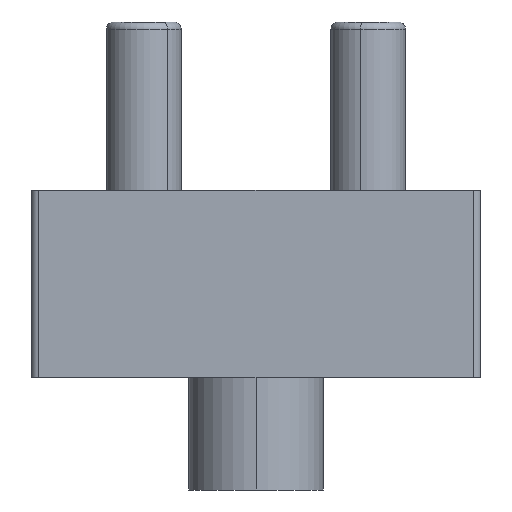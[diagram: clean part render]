
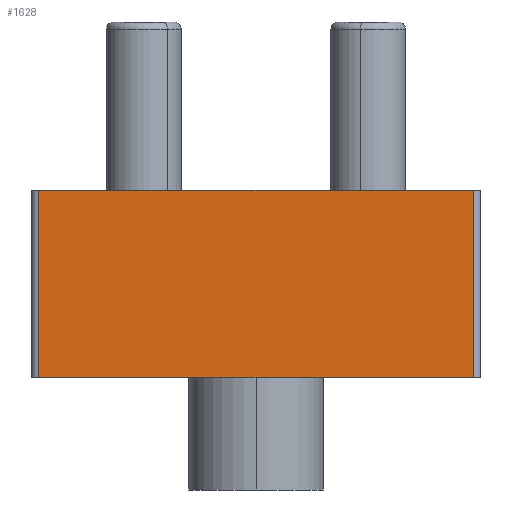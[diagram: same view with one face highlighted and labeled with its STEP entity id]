
A CAD part, left-side view. The second image highlights one B-rep face of the part: STEP entity #1628.
In plain terms, the highlighted planar face has unit normal (-1, 0, 0).
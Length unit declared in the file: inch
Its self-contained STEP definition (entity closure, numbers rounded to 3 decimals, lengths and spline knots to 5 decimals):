
#18 = CARTESIAN_POINT ( 'NONE',  ( -3., -1.45, 1.25 ) ) ;
#47 = DIRECTION ( 'NONE',  ( 0., -1., 0. ) ) ;
#60 = VERTEX_POINT ( 'NONE', #633 ) ;
#144 = ORIENTED_EDGE ( 'NONE', *, *, #1940, .T. ) ;
#183 = AXIS2_PLACEMENT_3D ( 'NONE', #2213, #1673, #821 ) ;
#214 = VERTEX_POINT ( 'NONE', #825 ) ;
#251 = VECTOR ( 'NONE', #988, 39.37008 ) ;
#435 = EDGE_CURVE ( 'NONE', #214, #918, #2195, .T. ) ;
#628 = EDGE_LOOP ( 'NONE', ( #2131, #926, #2222, #144 ) ) ;
#633 = CARTESIAN_POINT ( 'NONE',  ( -3., -1.45, 0. ) ) ;
#682 = VECTOR ( 'NONE', #757, 39.37008 ) ;
#757 = DIRECTION ( 'NONE',  ( 0., 0., 1. ) ) ;
#821 = DIRECTION ( 'NONE',  ( 0., 0., -1. ) ) ;
#825 = CARTESIAN_POINT ( 'NONE',  ( -3., 1.45, 1.25 ) ) ;
#918 = VERTEX_POINT ( 'NONE', #1756 ) ;
#926 = ORIENTED_EDGE ( 'NONE', *, *, #1704, .T. ) ;
#964 = CARTESIAN_POINT ( 'NONE',  ( -3., -1.5, 1.25 ) ) ;
#979 = VERTEX_POINT ( 'NONE', #1601 ) ;
#988 = DIRECTION ( 'NONE',  ( 0., -1., 0. ) ) ;
#1244 = CARTESIAN_POINT ( 'NONE',  ( -3., 1.45, 1.25 ) ) ;
#1344 = LINE ( 'NONE', #1536, #251 ) ;
#1536 = CARTESIAN_POINT ( 'NONE',  ( -3., -1.5, 0. ) ) ;
#1581 = DIRECTION ( 'NONE',  ( 0., 0., -1. ) ) ;
#1582 = VECTOR ( 'NONE', #1581, 39.37008 ) ;
#1601 = CARTESIAN_POINT ( 'NONE',  ( -3., 1.45, 0. ) ) ;
#1628 = ADVANCED_FACE ( 'NONE', ( #1888 ), #1873, .F. ) ;
#1645 = LINE ( 'NONE', #18, #682 ) ;
#1673 = DIRECTION ( 'NONE',  ( 1., 0., 0. ) ) ;
#1704 = EDGE_CURVE ( 'NONE', #214, #979, #1956, .T. ) ;
#1756 = CARTESIAN_POINT ( 'NONE',  ( -3., -1.45, 1.25 ) ) ;
#1873 = PLANE ( 'NONE',  #183 ) ;
#1888 = FACE_OUTER_BOUND ( 'NONE', #628, .T. ) ;
#1940 = EDGE_CURVE ( 'NONE', #60, #918, #1645, .T. ) ;
#1956 = LINE ( 'NONE', #1244, #1582 ) ;
#1988 = EDGE_CURVE ( 'NONE', #979, #60, #1344, .T. ) ;
#1989 = VECTOR ( 'NONE', #47, 39.37008 ) ;
#2131 = ORIENTED_EDGE ( 'NONE', *, *, #435, .F. ) ;
#2195 = LINE ( 'NONE', #964, #1989 ) ;
#2213 = CARTESIAN_POINT ( 'NONE',  ( -3., -1.5, 1.25 ) ) ;
#2222 = ORIENTED_EDGE ( 'NONE', *, *, #1988, .T. ) ;
